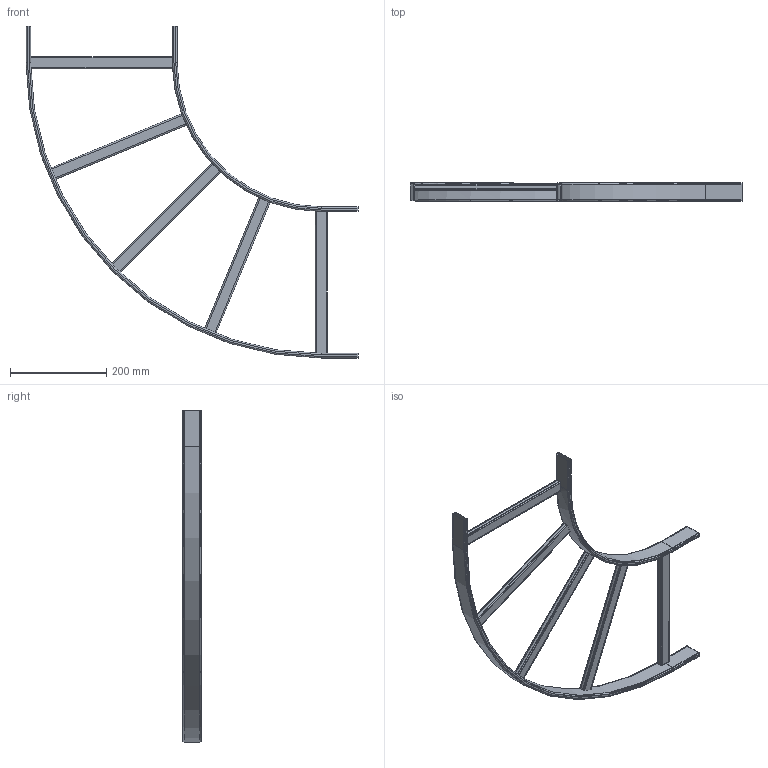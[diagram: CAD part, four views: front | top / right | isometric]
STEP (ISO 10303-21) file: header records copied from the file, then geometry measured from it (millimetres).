
FILE_DESCRIPTION (( 'STEP AP203' ), '1' );
FILE_NAME ('l90hb12blk.STEP', '2022-07-07T19:21:42', ( '' ), ( '' ), 'SwSTEP 2.0', 'SolidWorks 2020', '' );
FILE_SCHEMA (( 'CONFIG_CONTROL_DESIGN' ));
Length unit declared in the file: inch
Products named in the file (1): l90hb12blk
Bounding box: 690.56 x 38.1 x 690.56 mm (x, y, z)
Volume: 346601.7 mm3; surface area: 497249.1 mm2
Topology: 5 solids, 6 shells, 193 faces, 480 edges, 298 vertices
Faces by surface type: cylinder 89, plane 88, torus 16
Entity records: 6491 total; most frequent: CARTESIAN_POINT 1812, ORIENTED_EDGE 960, DIRECTION 960, EDGE_CURVE 480, AXIS2_PLACEMENT_3D 346, VERTEX_POINT 298, LINE 268, VECTOR 268
